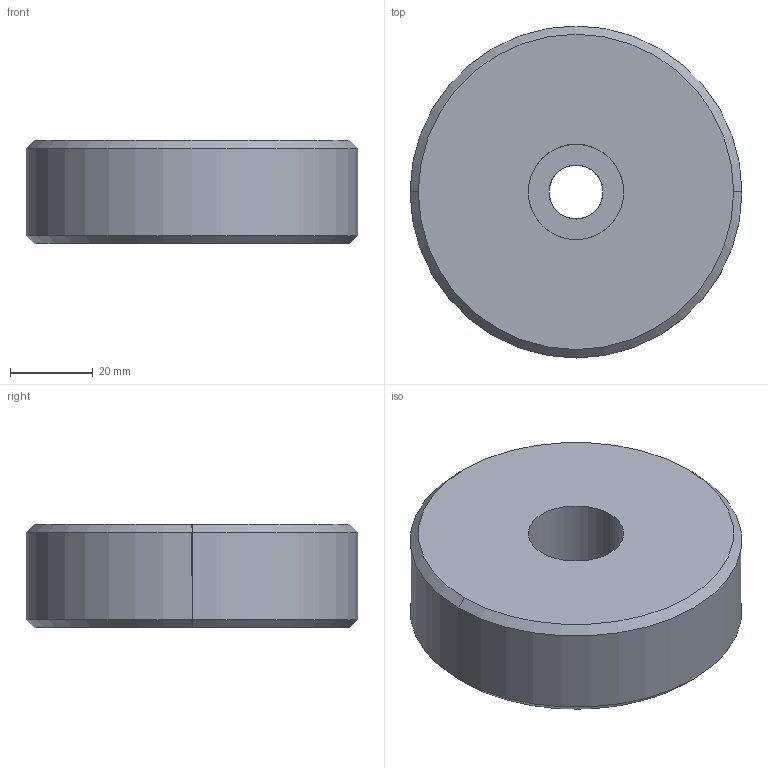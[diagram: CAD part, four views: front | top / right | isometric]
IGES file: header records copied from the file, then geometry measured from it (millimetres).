
Start section: START RECORD GO HERE.
Global section: file name: 703.3.igs; native system: DASSAULT SYSTEMES CATIA V5 R20 - www.3ds.com; preprocessor: CATIA Version 5 Release 20 ; author: Utente; organization: NB04-ASUS; date: 20201025.133818; units: millimetre
Bounding box: 80 x 80 x 25 mm (x, y, z)
Surface area: 17058 mm2 (no closed solid volume)
Topology: 0 solids, 0 shells, 13 faces, 52 edges, 52 vertices
Faces by surface type: revolution 10, plane 3
